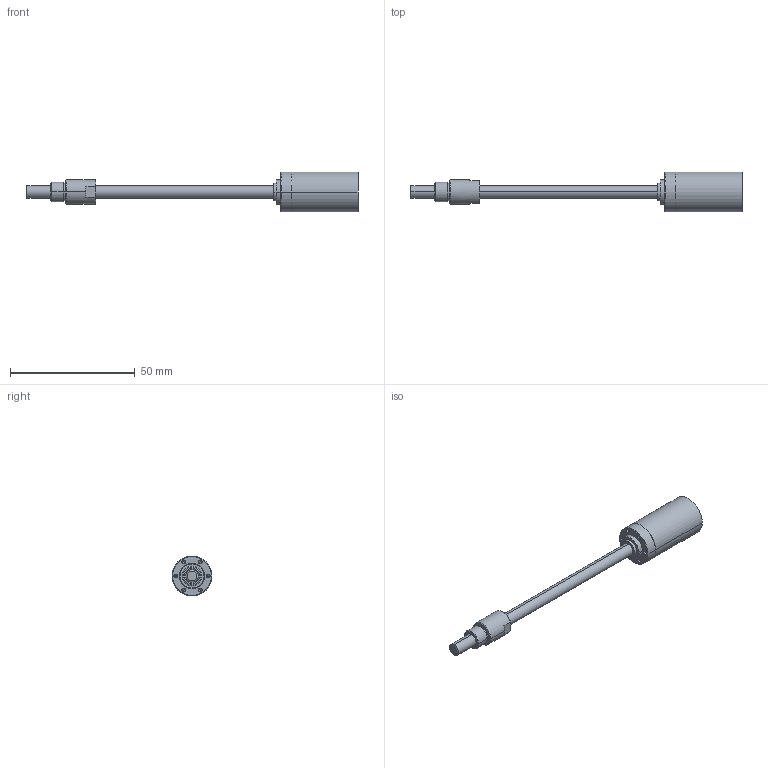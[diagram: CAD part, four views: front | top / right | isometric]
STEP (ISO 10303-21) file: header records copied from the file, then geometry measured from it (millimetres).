
FILE_DESCRIPTION((''),'2;1');
FILE_NAME('424219_GP16S_KG-3ST','2016-10-05T',('mmagpetk'),(''),'CREO PARAMETRIC BY PTC INC, 2016050','CREO PARAMETRIC BY PTC INC, 2016050','');
FILE_SCHEMA(('CONFIG_CONTROL_DESIGN'));
Length unit declared in the file: millimetre
Products named in the file (1): 424219_GP16S_KG-3ST
Bounding box: 133 x 16 x 16 mm (x, y, z)
Volume: 8788 mm3; surface area: 4637.6 mm2
Topology: 1 solids, 1 shells, 106 faces, 234 edges, 140 vertices
Faces by surface type: cylinder 46, cone 36, plane 22, torus 2
Entity records: 4920 total; most frequent: CARTESIAN_POINT 584, DIRECTION 552, ORIENTED_EDGE 444, PRESENTATION_STYLE_ASSIGNMENT 321, AXIS2_PLACEMENT_3D 232, STYLED_ITEM 223, CURVE_STYLE 222, EDGE_CURVE 222
